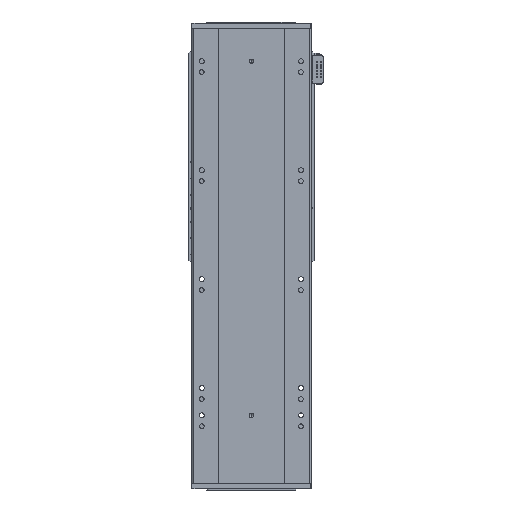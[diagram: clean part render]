
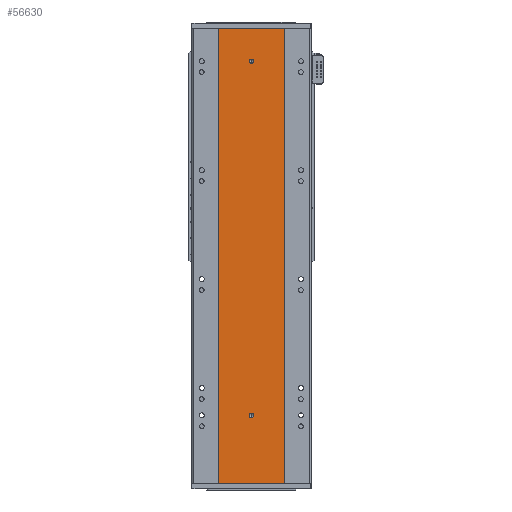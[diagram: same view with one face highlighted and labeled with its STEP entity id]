
A CAD part, front view. The second image highlights one B-rep face of the part: STEP entity #56630.
In plain terms, the highlighted planar face has unit normal (0, -1, 0).
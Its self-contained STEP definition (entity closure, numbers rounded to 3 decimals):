
#677 = ORIENTED_EDGE ( 'NONE', *, *, #49925, .F. ) ;
#1538 = CARTESIAN_POINT ( 'NONE',  ( -60., 0., 835. ) ) ;
#2410 = AXIS2_PLACEMENT_3D ( 'NONE', #26452, #12497, #47814 ) ;
#3226 = VERTEX_POINT ( 'NONE', #17416 ) ;
#3502 = VECTOR ( 'NONE', #48412, 1000. ) ;
#4385 = FACE_OUTER_BOUND ( 'NONE', #48448, .T. ) ;
#6038 = CIRCLE ( 'NONE', #22601, 4. ) ;
#6227 = EDGE_LOOP ( 'NONE', ( #21762, #677 ) ) ;
#7608 = VECTOR ( 'NONE', #10104, 1000. ) ;
#7631 = CARTESIAN_POINT ( 'NONE',  ( 60., 0., 0. ) ) ;
#9697 = LINE ( 'NONE', #1538, #43057 ) ;
#9903 = CARTESIAN_POINT ( 'NONE',  ( 60., 0., 835. ) ) ;
#10104 = DIRECTION ( 'NONE',  ( 0., 0., -1. ) ) ;
#11857 = EDGE_CURVE ( 'NONE', #46080, #3226, #18194, .T. ) ;
#11976 = ORIENTED_EDGE ( 'NONE', *, *, #45670, .T. ) ;
#12497 = DIRECTION ( 'NONE',  ( 0., 1., 0. ) ) ;
#12615 = CIRCLE ( 'NONE', #52279, 4. ) ;
#13206 = EDGE_CURVE ( 'NONE', #13424, #31758, #9697, .T. ) ;
#13424 = VERTEX_POINT ( 'NONE', #38578 ) ;
#13952 = ORIENTED_EDGE ( 'NONE', *, *, #11857, .F. ) ;
#15018 = VERTEX_POINT ( 'NONE', #56552 ) ;
#16199 = AXIS2_PLACEMENT_3D ( 'NONE', #40153, #27146, #22269 ) ;
#17161 = EDGE_LOOP ( 'NONE', ( #56374, #13952 ) ) ;
#17416 = CARTESIAN_POINT ( 'NONE',  ( 0., 0., 771. ) ) ;
#18194 = CIRCLE ( 'NONE', #16199, 4. ) ;
#18780 = CARTESIAN_POINT ( 'NONE',  ( 0., 0., 129. ) ) ;
#19522 = AXIS2_PLACEMENT_3D ( 'NONE', #41553, #42107, #28941 ) ;
#19579 = ORIENTED_EDGE ( 'NONE', *, *, #13206, .T. ) ;
#20406 = LINE ( 'NONE', #41847, #28056 ) ;
#20655 = VERTEX_POINT ( 'NONE', #43520 ) ;
#20824 = EDGE_CURVE ( 'NONE', #15018, #34674, #45869, .T. ) ;
#21762 = ORIENTED_EDGE ( 'NONE', *, *, #20824, .F. ) ;
#22269 = DIRECTION ( 'NONE',  ( 0., 0., -1. ) ) ;
#22601 = AXIS2_PLACEMENT_3D ( 'NONE', #46283, #36585, #23560 ) ;
#22954 = CARTESIAN_POINT ( 'NONE',  ( 0., 0., 779. ) ) ;
#23560 = DIRECTION ( 'NONE',  ( 0., 0., -1. ) ) ;
#26452 = CARTESIAN_POINT ( 'NONE',  ( -60., 0., 835. ) ) ;
#26589 = FACE_BOUND ( 'NONE', #6227, .T. ) ;
#27146 = DIRECTION ( 'NONE',  ( 0., -1., 0. ) ) ;
#28056 = VECTOR ( 'NONE', #55212, 1000. ) ;
#28822 = VERTEX_POINT ( 'NONE', #7631 ) ;
#28941 = DIRECTION ( 'NONE',  ( 0., 0., -1. ) ) ;
#31649 = DIRECTION ( 'NONE',  ( 0., 0., -1. ) ) ;
#31758 = VERTEX_POINT ( 'NONE', #51817 ) ;
#34674 = VERTEX_POINT ( 'NONE', #18780 ) ;
#34701 = ORIENTED_EDGE ( 'NONE', *, *, #38377, .F. ) ;
#36585 = DIRECTION ( 'NONE',  ( 0., -1., 0. ) ) ;
#37011 = ORIENTED_EDGE ( 'NONE', *, *, #37824, .F. ) ;
#37824 = EDGE_CURVE ( 'NONE', #13424, #20655, #56932, .T. ) ;
#38377 = EDGE_CURVE ( 'NONE', #20655, #28822, #44438, .T. ) ;
#38578 = CARTESIAN_POINT ( 'NONE',  ( -60., 0., 835. ) ) ;
#39049 = FACE_BOUND ( 'NONE', #17161, .T. ) ;
#40038 = CARTESIAN_POINT ( 'NONE',  ( 0., 0., 125. ) ) ;
#40153 = CARTESIAN_POINT ( 'NONE',  ( 0., 0., 775. ) ) ;
#41025 = CARTESIAN_POINT ( 'NONE',  ( -60., 0., 835. ) ) ;
#41553 = CARTESIAN_POINT ( 'NONE',  ( 0., 0., 125. ) ) ;
#41847 = CARTESIAN_POINT ( 'NONE',  ( -60., 0., 0. ) ) ;
#42107 = DIRECTION ( 'NONE',  ( 0., -1., 0. ) ) ;
#42689 = EDGE_CURVE ( 'NONE', #3226, #46080, #6038, .T. ) ;
#43057 = VECTOR ( 'NONE', #45221, 1000. ) ;
#43520 = CARTESIAN_POINT ( 'NONE',  ( 60., 0., 835. ) ) ;
#44438 = LINE ( 'NONE', #9903, #7608 ) ;
#45221 = DIRECTION ( 'NONE',  ( 0., 0., -1. ) ) ;
#45670 = EDGE_CURVE ( 'NONE', #31758, #28822, #20406, .T. ) ;
#45869 = CIRCLE ( 'NONE', #19522, 4. ) ;
#46080 = VERTEX_POINT ( 'NONE', #22954 ) ;
#46283 = CARTESIAN_POINT ( 'NONE',  ( 0., 0., 775. ) ) ;
#47814 = DIRECTION ( 'NONE',  ( 0., 0., 1. ) ) ;
#48412 = DIRECTION ( 'NONE',  ( 1., 0., 0. ) ) ;
#48448 = EDGE_LOOP ( 'NONE', ( #11976, #34701, #37011, #19579 ) ) ;
#49925 = EDGE_CURVE ( 'NONE', #34674, #15018, #12615, .T. ) ;
#51817 = CARTESIAN_POINT ( 'NONE',  ( -60., 0., 0. ) ) ;
#52279 = AXIS2_PLACEMENT_3D ( 'NONE', #40038, #53756, #31649 ) ;
#53019 = PLANE ( 'NONE',  #2410 ) ;
#53756 = DIRECTION ( 'NONE',  ( 0., -1., 0. ) ) ;
#55212 = DIRECTION ( 'NONE',  ( 1., 0., 0. ) ) ;
#56374 = ORIENTED_EDGE ( 'NONE', *, *, #42689, .F. ) ;
#56552 = CARTESIAN_POINT ( 'NONE',  ( 0., 0., 121. ) ) ;
#56630 = ADVANCED_FACE ( 'NONE', ( #39049, #26589, #4385 ), #53019, .F. ) ;
#56932 = LINE ( 'NONE', #41025, #3502 ) ;
